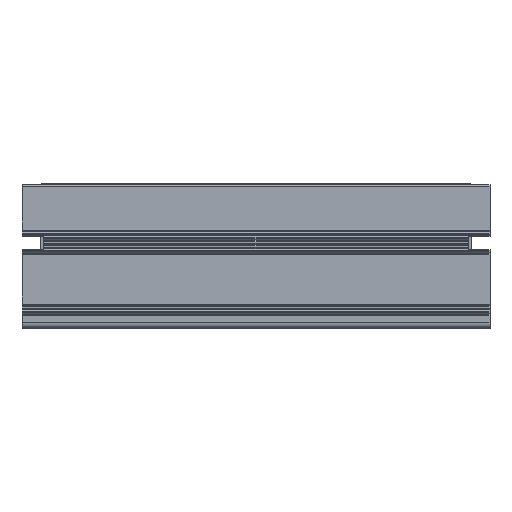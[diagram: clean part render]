
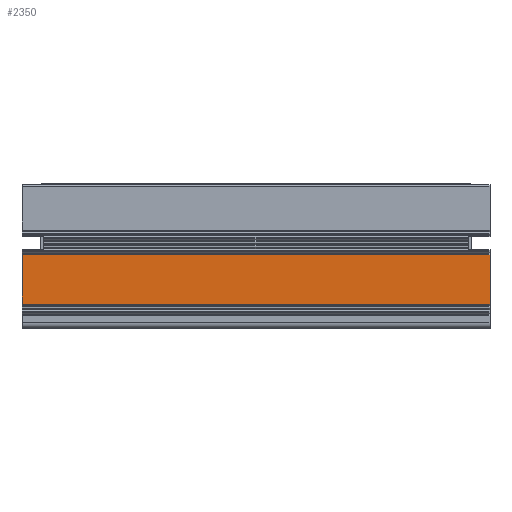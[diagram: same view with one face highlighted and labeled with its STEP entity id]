
A CAD part, front view. The second image highlights one B-rep face of the part: STEP entity #2350.
In plain terms, the highlighted planar face has unit normal (0, -1, 0) as drawn and (-1, 0, 0) by its records, which use the part's own axes.
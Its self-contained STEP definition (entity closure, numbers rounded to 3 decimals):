
#2350 = ADVANCED_FACE( '', ( #6847 ), #6848, .T. );
#6847 = FACE_OUTER_BOUND( '', #14267, .T. );
#6848 = PLANE( '', #14268 );
#14267 = EDGE_LOOP( '', ( #34428, #34429, #34430, #34431 ) );
#14268 = AXIS2_PLACEMENT_3D( '', #34432, #34433, #34434 );
#34428 = ORIENTED_EDGE( '', *, *, #54562, .F. );
#34429 = ORIENTED_EDGE( '', *, *, #54563, .F. );
#34430 = ORIENTED_EDGE( '', *, *, #54564, .T. );
#34431 = ORIENTED_EDGE( '', *, *, #54565, .T. );
#34432 = CARTESIAN_POINT( '', ( 13.218, 82.091, 163. ) );
#34433 = DIRECTION( '', ( -1., 0., 0. ) );
#34434 = DIRECTION( '', ( 0., 0., 1. ) );
#54562 = EDGE_CURVE( '', #62517, #62518, #62519, .T. );
#54563 = EDGE_CURVE( '', #62520, #62517, #62521, .T. );
#54564 = EDGE_CURVE( '', #62520, #62522, #62523, .T. );
#54565 = EDGE_CURVE( '', #62522, #62518, #62524, .T. );
#62517 = VERTEX_POINT( '', #74426 );
#62518 = VERTEX_POINT( '', #74427 );
#62519 = LINE( '', #74428, #74429 );
#62520 = VERTEX_POINT( '', #74430 );
#62521 = LINE( '', #74431, #74432 );
#62522 = VERTEX_POINT( '', #74433 );
#62523 = LINE( '', #74434, #74435 );
#62524 = LINE( '', #74436, #74437 );
#74426 = CARTESIAN_POINT( '', ( 13.218, 155.144, 0. ) );
#74427 = CARTESIAN_POINT( '', ( 13.218, 172.389, 0. ) );
#74428 = CARTESIAN_POINT( '', ( 13.218, 82.091, 0. ) );
#74429 = VECTOR( '', #101612, 1000. );
#74430 = CARTESIAN_POINT( '', ( 13.218, 155.144, 163. ) );
#74431 = CARTESIAN_POINT( '', ( 13.218, 155.144, 163. ) );
#74432 = VECTOR( '', #101613, 1000. );
#74433 = CARTESIAN_POINT( '', ( 13.218, 172.389, 163. ) );
#74434 = CARTESIAN_POINT( '', ( 13.218, 82.091, 163. ) );
#74435 = VECTOR( '', #101614, 1000. );
#74436 = CARTESIAN_POINT( '', ( 13.218, 172.389, 163. ) );
#74437 = VECTOR( '', #101615, 1000. );
#101612 = DIRECTION( '', ( 0., 1., 0. ) );
#101613 = DIRECTION( '', ( 0., 0., -1. ) );
#101614 = DIRECTION( '', ( 0., 1., 0. ) );
#101615 = DIRECTION( '', ( 0., 0., -1. ) );
